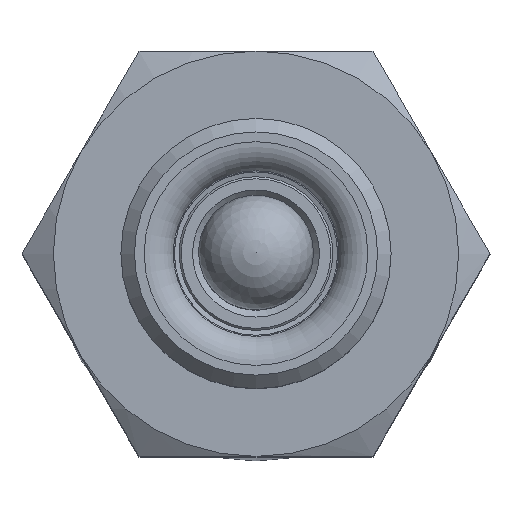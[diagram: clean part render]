
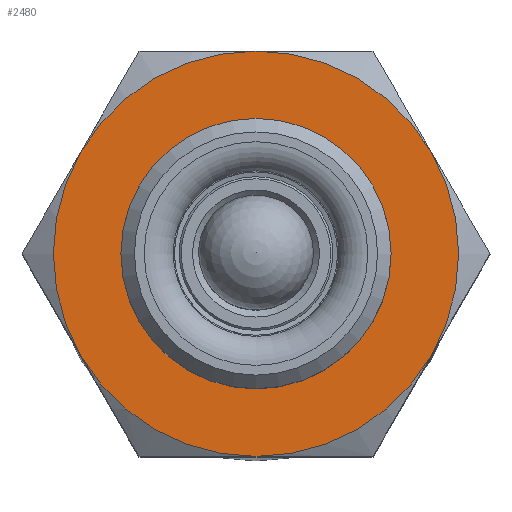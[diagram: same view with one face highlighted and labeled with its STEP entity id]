
A CAD part, top view. The second image highlights one B-rep face of the part: STEP entity #2480.
In plain terms, the highlighted planar face has unit normal (0, 0, 1) as drawn and (-1, 0, 0) by its records, which use the part's own axes.
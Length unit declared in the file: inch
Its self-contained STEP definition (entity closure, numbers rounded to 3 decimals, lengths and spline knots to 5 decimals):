
#124=FACE_BOUND('',#594,.T.);
#185=PLANE('',#2865);
#391=FACE_OUTER_BOUND('',#593,.T.);
#593=EDGE_LOOP('',(#2070,#2071,#2072,#2073,#2074,#2075));
#594=EDGE_LOOP('',(#2076));
#998=CIRCLE('',#2860,0.25006);
#1002=CIRCLE('',#2866,0.375);
#1003=CIRCLE('',#2867,0.375);
#1004=CIRCLE('',#2868,0.375);
#1005=CIRCLE('',#2869,0.375);
#1006=CIRCLE('',#2870,0.375);
#1007=CIRCLE('',#2871,0.375);
#1190=VERTEX_POINT('',#4505);
#1194=VERTEX_POINT('',#4517);
#1195=VERTEX_POINT('',#4518);
#1196=VERTEX_POINT('',#4520);
#1197=VERTEX_POINT('',#4522);
#1198=VERTEX_POINT('',#4524);
#1199=VERTEX_POINT('',#4526);
#1483=EDGE_CURVE('',#1190,#1190,#998,.T.);
#1489=EDGE_CURVE('',#1194,#1195,#1002,.T.);
#1490=EDGE_CURVE('',#1195,#1196,#1003,.T.);
#1491=EDGE_CURVE('',#1196,#1197,#1004,.T.);
#1492=EDGE_CURVE('',#1197,#1198,#1005,.T.);
#1493=EDGE_CURVE('',#1198,#1199,#1006,.T.);
#1494=EDGE_CURVE('',#1199,#1194,#1007,.T.);
#2070=ORIENTED_EDGE('',*,*,#1489,.T.);
#2071=ORIENTED_EDGE('',*,*,#1490,.T.);
#2072=ORIENTED_EDGE('',*,*,#1491,.T.);
#2073=ORIENTED_EDGE('',*,*,#1492,.T.);
#2074=ORIENTED_EDGE('',*,*,#1493,.T.);
#2075=ORIENTED_EDGE('',*,*,#1494,.T.);
#2076=ORIENTED_EDGE('',*,*,#1483,.F.);
#2480=ADVANCED_FACE('',(#391,#124),#185,.F.);
#2860=AXIS2_PLACEMENT_3D('',#4506,#3588,#3589);
#2865=AXIS2_PLACEMENT_3D('',#4516,#3600,#3601);
#2866=AXIS2_PLACEMENT_3D('',#4519,#3602,#3603);
#2867=AXIS2_PLACEMENT_3D('',#4521,#3604,#3605);
#2868=AXIS2_PLACEMENT_3D('',#4523,#3606,#3607);
#2869=AXIS2_PLACEMENT_3D('',#4525,#3608,#3609);
#2870=AXIS2_PLACEMENT_3D('',#4527,#3610,#3611);
#2871=AXIS2_PLACEMENT_3D('',#4528,#3612,#3613);
#3588=DIRECTION('center_axis',(-1.,0.,0.));
#3589=DIRECTION('ref_axis',(0.,0.,-1.));
#3600=DIRECTION('center_axis',(1.,0.,0.));
#3601=DIRECTION('ref_axis',(0.,0.,-1.));
#3602=DIRECTION('center_axis',(-1.,0.,0.));
#3603=DIRECTION('ref_axis',(0.,1.,0.));
#3604=DIRECTION('center_axis',(-1.,0.,0.));
#3605=DIRECTION('ref_axis',(0.,1.,0.));
#3606=DIRECTION('center_axis',(-1.,0.,0.));
#3607=DIRECTION('ref_axis',(0.,1.,0.));
#3608=DIRECTION('center_axis',(-1.,0.,0.));
#3609=DIRECTION('ref_axis',(0.,1.,0.));
#3610=DIRECTION('center_axis',(-1.,0.,0.));
#3611=DIRECTION('ref_axis',(0.,1.,0.));
#3612=DIRECTION('center_axis',(-1.,0.,0.));
#3613=DIRECTION('ref_axis',(0.,1.,0.));
#4505=CARTESIAN_POINT('',(0.,0.,0.25006));
#4506=CARTESIAN_POINT('Origin',(0.,0.,0.));
#4516=CARTESIAN_POINT('Origin',(0.,0.,0.));
#4517=CARTESIAN_POINT('',(0.,-0.32476,-0.1875));
#4518=CARTESIAN_POINT('',(0.,-0.32476,0.1875));
#4519=CARTESIAN_POINT('Origin',(0.,0.,0.));
#4520=CARTESIAN_POINT('',(0.,0.,0.375));
#4521=CARTESIAN_POINT('Origin',(0.,0.,0.));
#4522=CARTESIAN_POINT('',(0.,0.32476,0.1875));
#4523=CARTESIAN_POINT('Origin',(0.,0.,0.));
#4524=CARTESIAN_POINT('',(0.,0.32476,-0.1875));
#4525=CARTESIAN_POINT('Origin',(0.,0.,0.));
#4526=CARTESIAN_POINT('',(0.,0.,-0.375));
#4527=CARTESIAN_POINT('Origin',(0.,0.,0.));
#4528=CARTESIAN_POINT('Origin',(0.,0.,0.));
